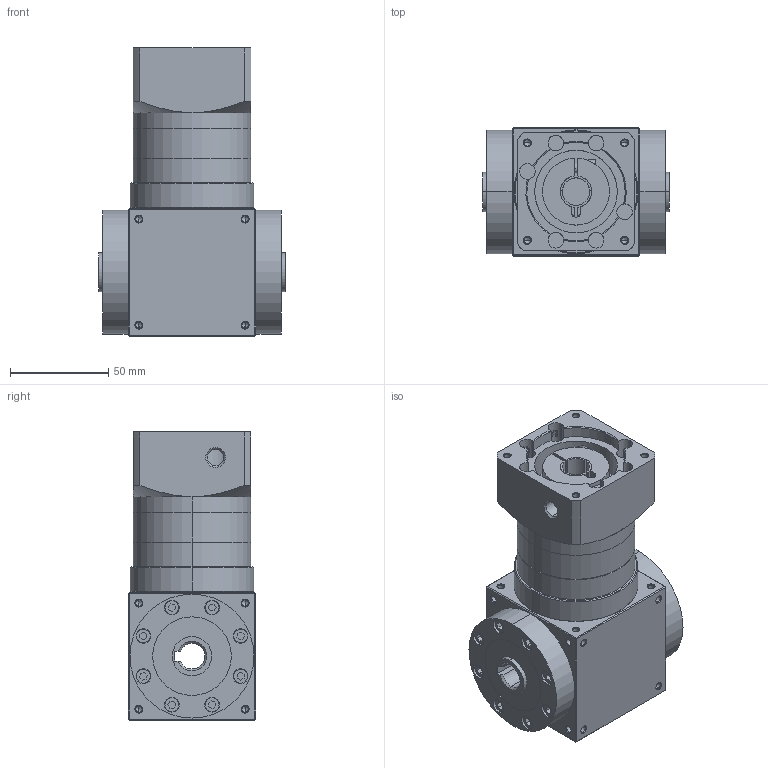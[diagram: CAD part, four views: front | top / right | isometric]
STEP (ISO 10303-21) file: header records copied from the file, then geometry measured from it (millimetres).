
FILE_DESCRIPTION (( 'STEP AP203' ), '1' );
FILE_NAME ('AT060-FH-L2-14-50-70M4.STEP', '2025-08-12T05:44:52', ( 'Windows User' ), ( 'P R C' ), 'SwSTEP 2.0', 'SolidWorks 2016', '' );
FILE_SCHEMA (( 'CONFIG_CONTROL_DESIGN' ));
Length unit declared in the file: millimetre
Products named in the file (6): AT60FH-转角箱体-批量-孔输出; AT60-怀堤楊擘-蠶講; AT60-单级齿圈; 输入胀套-16; AT60-输入法兰-A-50-M4-70; AT060-FH-L2-14-50-70M4
Assembly tree (5 placements, depth 2):
  AT060-FH-L2-14-50-70M4
    AT60FH-转角箱体-批量-孔输出
    AT60-怀堤楊擘-蠶講
    AT60-单级齿圈
    输入胀套-16
    AT60-输入法兰-A-50-M4-70
Bounding box: 95 x 65 x 146.5 mm (x, y, z)
Volume: 413080.9 mm3; surface area: 119010.3 mm2
Topology: 12 solids, 24 shells, 1642 faces, 4197 edges, 2644 vertices
Faces by surface type: plane 794, cylinder 410, cone 296, bspline 142
Entity records: 55332 total; most frequent: CARTESIAN_POINT 16200, ORIENTED_EDGE 8178, DIRECTION 7559, EDGE_CURVE 4089, VERTEX_POINT 2644, LINE 2547, VECTOR 2547, AXIS2_PLACEMENT_3D 2506
